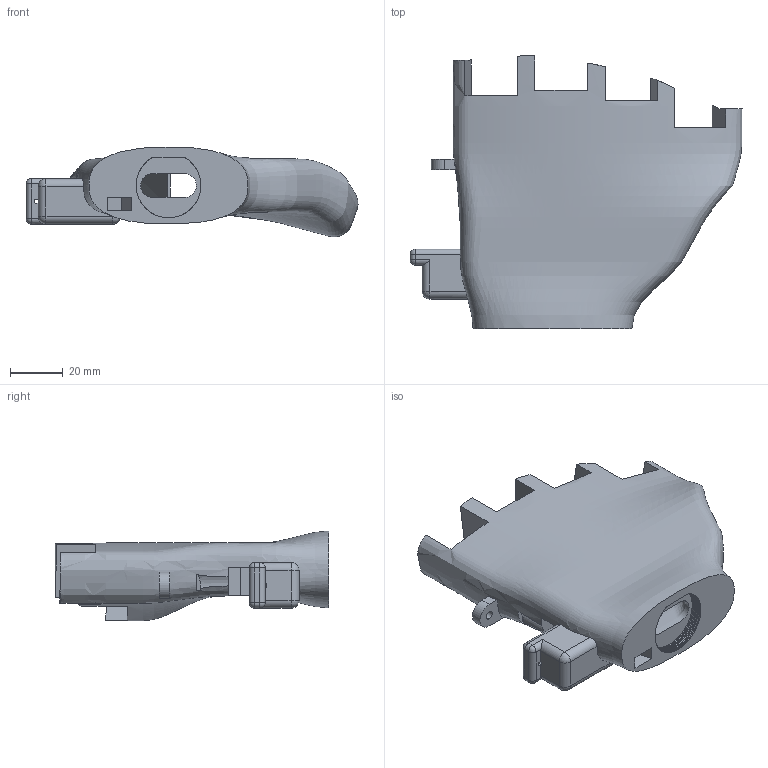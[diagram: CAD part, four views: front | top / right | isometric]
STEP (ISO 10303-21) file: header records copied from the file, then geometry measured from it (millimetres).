
FILE_DESCRIPTION(('Open CASCADE Model'),'2;1');
FILE_NAME('Open CASCADE Shape Model','2026-10-10T16:02:15',('Author'),( 'Open CASCADE'),'Open CASCADE STEP processor 7.9','Open CASCADE 7.9' ,'Unknown');
FILE_SCHEMA(('AUTOMOTIVE_DESIGN { 1 0 10303 214 1 1 1 1 }'));
Products named in the file (1): Open CASCADE STEP translator 7.9 1
Bounding box: 125.34 x 103.21 x 33.93 mm (x, y, z)
Volume: 97790.7 mm3; surface area: 42954.5 mm2
Topology: 1 solids, 1 shells, 352 faces, 1030 edges, 671 vertices
Faces by surface type: plane 298, cylinder 26, bspline 18, sphere 10
Full cylindrical faces by diameter (mm): 3.2 x1
Entity records: 365021 total; most frequent: CARTESIAN_POINT 346327, DIRECTION 2865, LINE 2080, VECTOR 2080, ORIENTED_EDGE 2042, PCURVE 2042, DEFINITIONAL_REPRESENTATION 2042, EDGE_CURVE 1021
